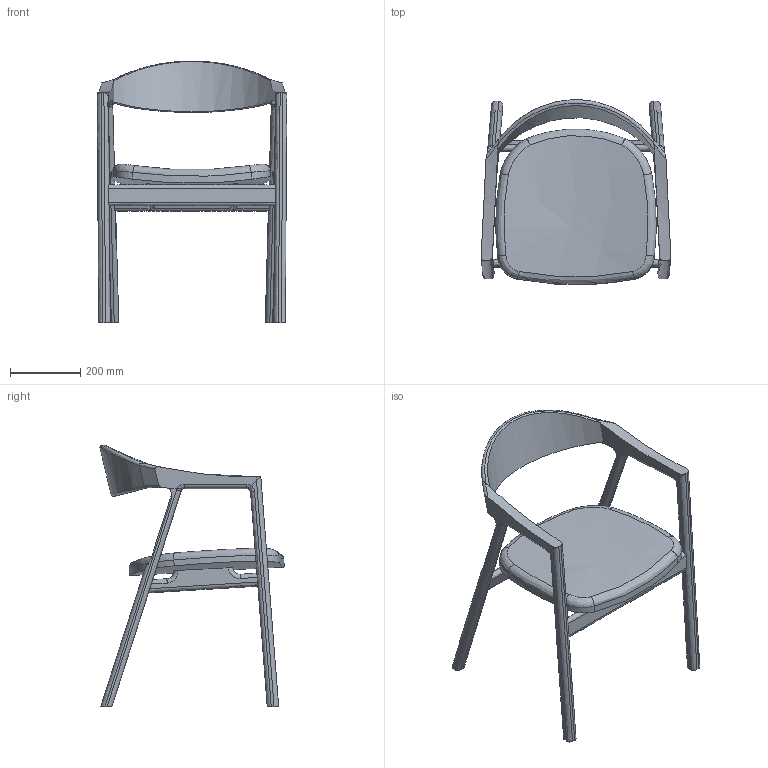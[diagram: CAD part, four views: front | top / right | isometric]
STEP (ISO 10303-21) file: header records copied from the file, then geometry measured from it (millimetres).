
FILE_DESCRIPTION(/* description */ (''),/* implementation_level */ '2;1');
FILE_NAME(/* name */ 'kinoshita_coccole_c109a',/* time_stamp */ '2025-12-22T19:11:25+09:00',/* author */ (''),/* organization */ (''),/* preprocessor_version */ 'ST-DEVELOPER v16.5',/* originating_system */ '',/* authorisation */ '');
FILE_SCHEMA (('AUTOMOTIVE_DESIGN'));
Length unit declared in the file: millimetre
Products named in the file (1): Document
Bounding box: 538.7 x 522.98 x 743.05 mm (x, y, z)
Volume: 8105710.4 mm3; surface area: 1122621.2 mm2
Topology: 2 solids, 5 shells, 176 faces, 477 edges, 305 vertices
Faces by surface type: bspline 118, plane 58
Entity records: 7812 total; most frequent: CARTESIAN_POINT 5026, ORIENTED_EDGE 938, EDGE_CURVE 477, VERTEX_POINT 305, B_SPLINE_CURVE_WITH_KNOTS 290, ADVANCED_FACE 176, FACE_OUTER_BOUND 176, EDGE_LOOP 176
